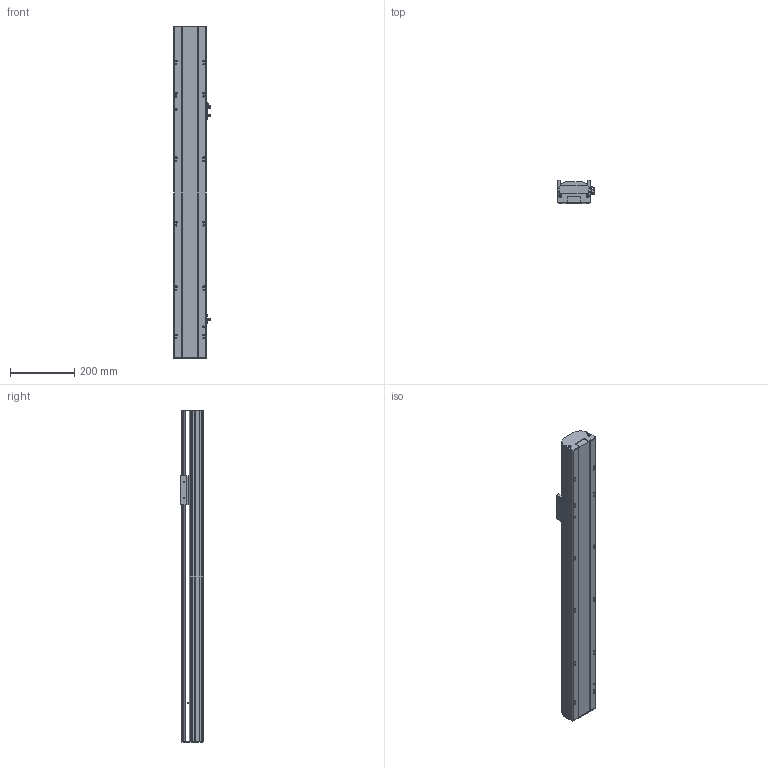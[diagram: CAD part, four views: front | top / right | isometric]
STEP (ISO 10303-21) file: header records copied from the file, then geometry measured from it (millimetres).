
FILE_DESCRIPTION (( 'STEP AP214' ), '1' );
FILE_NAME ('QTH12-650-M-P10.STEP', '2021-11-13T12:49:19', ( '' ), ( '' ), 'SwSTEP 2.0', 'SolidWorks 2020', '' );
FILE_SCHEMA (( 'AUTOMOTIVE_DESIGN' ));
Length unit declared in the file: millimetre
Products named in the file (5): 葩璃 pm-t65-672^QTH12-M-P10; 葩璃 QTH12-M-002 奻裔MZ-102-02^QTH12-M-P10; 葩璃 QTH12-BC-005 賑釱MZ-102-03 ^QTH12-M-P10; QTH12-650-M-P10; 葩璃 QTH12-M-001 菁釱MZ-102-01^QTH12-M-P10
Assembly tree (6 placements, depth 2):
  QTH12-650-M-P10
    葩璃 QTH12-M-001 菁釱MZ-102-01^QTH12-M-P10
    葩璃 QTH12-M-002 奻裔MZ-102-02^QTH12-M-P10
    葩璃 QTH12-BC-005 賑釱MZ-102-03 ^QTH12-M-P10
    葩璃 pm-t65-672^QTH12-M-P10  x3
Bounding box: 116.7 x 70 x 1030 mm (x, y, z)
Volume: 4166939 mm3; surface area: 604872.7 mm2
Topology: 10 solids, 10 shells, 783 faces, 2138 edges, 1382 vertices
Faces by surface type: plane 490, cylinder 245, cone 48
Entity records: 18710 total; most frequent: CARTESIAN_POINT 3310, DIRECTION 2970, ORIENTED_EDGE 2920, EDGE_CURVE 1460, AXIS2_PLACEMENT_3D 1002, LINE 966, VECTOR 966, VERTEX_POINT 958
